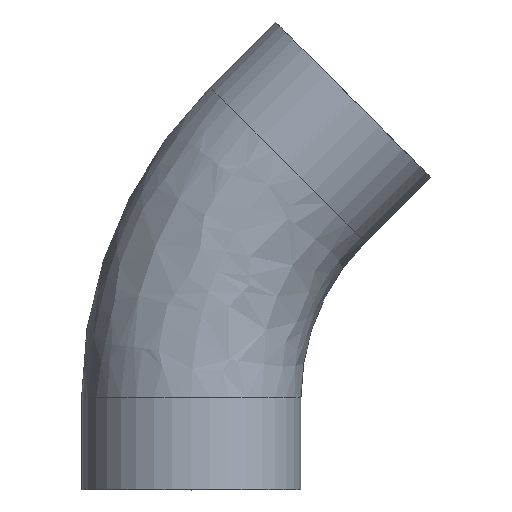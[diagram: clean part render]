
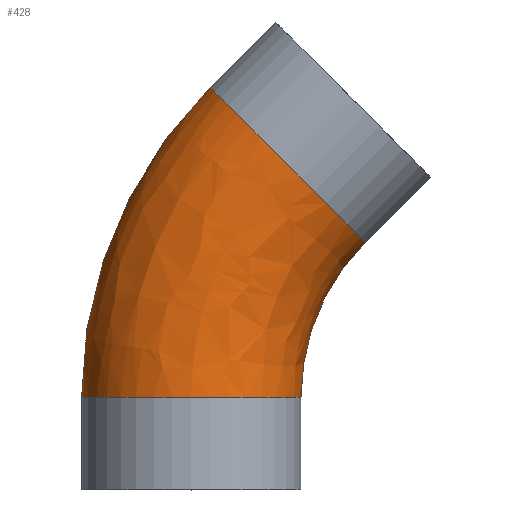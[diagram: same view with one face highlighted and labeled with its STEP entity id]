
A CAD part, top view. The second image highlights one B-rep face of the part: STEP entity #428.
In plain terms, the highlighted free-form (B-spline) face has degree [3, 3] with [4, 4] control points.
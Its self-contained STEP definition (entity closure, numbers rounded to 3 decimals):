
#3 = CARTESIAN_POINT ( 'NONE',  ( 13.074, 279.637, 152.4 ) ) ;
#11 = CARTESIAN_POINT ( 'NONE',  ( 76.2, 64.111, 0. ) ) ;
#15 = CARTESIAN_POINT ( 'NONE',  ( 91.874, 142.911, 0. ) ) ;
#21 = AXIS2_PLACEMENT_3D ( 'NONE', #252, #242, #391 ) ;
#30 = CARTESIAN_POINT ( 'NONE',  ( 13.074, 279.637, 0. ) ) ;
#35 = CARTESIAN_POINT ( 'NONE',  ( -44.851, 221.712, 152.4 ) ) ;
#46 = ORIENTED_EDGE ( 'NONE', *, *, #205, .T. ) ;
#47 = CARTESIAN_POINT ( 'NONE',  ( 120.837, 171.874, 152.4 ) ) ;
#60 = EDGE_CURVE ( 'NONE', #200, #308, #246, .T. ) ;
#68 = CARTESIAN_POINT ( 'NONE',  ( 76.2, 64.111, 0. ) ) ;
#70 = CARTESIAN_POINT ( 'NONE',  ( 120.837, 171.874, 0. ) ) ;
#75 = CARTESIAN_POINT ( 'NONE',  ( 91.874, 142.911, 152.4 ) ) ;
#82 = CARTESIAN_POINT ( 'NONE',  ( 120.837, 171.874, 0. ) ) ;
#98 = DIRECTION ( 'NONE',  ( -0.707, -0.707, 0. ) ) ;
#109 = DIRECTION ( 'NONE',  ( 0., 0., -1. ) ) ;
#117 = CARTESIAN_POINT ( 'NONE',  ( -76.2, 146.029, 152.4 ) ) ;
#118 =( BOUNDED_SURFACE ( )  B_SPLINE_SURFACE ( 3, 3, ( 
 ( #281, #415, #372, #340 ),
 ( #192, #117, #35, #3 ),
 ( #227, #188, #75, #47 ),
 ( #11, #124, #15, #70 ) ),
 .UNSPECIFIED., .F., .F., .F. ) 
 B_SPLINE_SURFACE_WITH_KNOTS ( ( 4, 4 ),
 ( 4, 4 ),
 ( 0., 1. ),
 ( 0., 1. ),
 .UNSPECIFIED. ) 
 GEOMETRIC_REPRESENTATION_ITEM ( )  RATIONAL_B_SPLINE_SURFACE ( (
 ( 1., 0.949, 0.949, 1.),
 ( 0.333, 0.316, 0.316, 0.333),
 ( 0.333, 0.316, 0.316, 0.333),
 ( 1., 0.949, 0.949, 1.) ) ) 
 REPRESENTATION_ITEM ( '' )  SURFACE ( )  );
#121 = CARTESIAN_POINT ( 'NONE',  ( 228.6, 64.111, 0. ) ) ;
#124 = CARTESIAN_POINT ( 'NONE',  ( 76.2, 105.07, 0. ) ) ;
#128 = ORIENTED_EDGE ( 'NONE', *, *, #193, .T. ) ;
#129 = AXIS2_PLACEMENT_3D ( 'NONE', #180, #187, #222 ) ;
#153 = CARTESIAN_POINT ( 'NONE',  ( -76.2, 64.111, 0. ) ) ;
#161 = CIRCLE ( 'NONE', #21, 76.2 ) ;
#167 = CARTESIAN_POINT ( 'NONE',  ( 66.955, 225.755, 0. ) ) ;
#172 = DIRECTION ( 'NONE',  ( -0.707, 0.707, 0. ) ) ;
#180 = CARTESIAN_POINT ( 'NONE',  ( 228.6, 64.111, 0. ) ) ;
#187 = DIRECTION ( 'NONE',  ( 0., 0., -1. ) ) ;
#188 = CARTESIAN_POINT ( 'NONE',  ( 76.2, 105.07, 152.4 ) ) ;
#192 = CARTESIAN_POINT ( 'NONE',  ( -76.2, 64.111, 152.4 ) ) ;
#193 = EDGE_CURVE ( 'NONE', #310, #308, #311, .T. ) ;
#200 = VERTEX_POINT ( 'NONE', #153 ) ;
#205 = EDGE_CURVE ( 'NONE', #200, #451, #161, .T. ) ;
#222 = DIRECTION ( 'NONE',  ( -1., 0., 0. ) ) ;
#227 = CARTESIAN_POINT ( 'NONE',  ( 76.2, 64.111, 152.4 ) ) ;
#242 = DIRECTION ( 'NONE',  ( 0., 1., 0. ) ) ;
#246 = CIRCLE ( 'NONE', #299, 304.8 ) ;
#252 = CARTESIAN_POINT ( 'NONE',  ( 0., 64.111, 0. ) ) ;
#270 = AXIS2_PLACEMENT_3D ( 'NONE', #167, #98, #172 ) ;
#281 = CARTESIAN_POINT ( 'NONE',  ( -76.2, 64.111, 0. ) ) ;
#299 = AXIS2_PLACEMENT_3D ( 'NONE', #121, #109, #374 ) ;
#308 = VERTEX_POINT ( 'NONE', #30 ) ;
#310 = VERTEX_POINT ( 'NONE', #82 ) ;
#311 = CIRCLE ( 'NONE', #270, 76.2 ) ;
#340 = CARTESIAN_POINT ( 'NONE',  ( 13.074, 279.637, 0. ) ) ;
#363 = EDGE_CURVE ( 'NONE', #451, #310, #383, .T. ) ;
#372 = CARTESIAN_POINT ( 'NONE',  ( -44.851, 221.712, 0. ) ) ;
#374 = DIRECTION ( 'NONE',  ( -1., 0., 0. ) ) ;
#382 = FACE_OUTER_BOUND ( 'NONE', #409, .T. ) ;
#383 = CIRCLE ( 'NONE', #129, 152.4 ) ;
#387 = ORIENTED_EDGE ( 'NONE', *, *, #60, .F. ) ;
#391 = DIRECTION ( 'NONE',  ( -1., 0., 0. ) ) ;
#409 = EDGE_LOOP ( 'NONE', ( #46, #443, #128, #387 ) ) ;
#415 = CARTESIAN_POINT ( 'NONE',  ( -76.2, 146.029, 0. ) ) ;
#428 = ADVANCED_FACE ( 'NONE', ( #382 ), #118, .T. ) ;
#443 = ORIENTED_EDGE ( 'NONE', *, *, #363, .T. ) ;
#451 = VERTEX_POINT ( 'NONE', #68 ) ;
